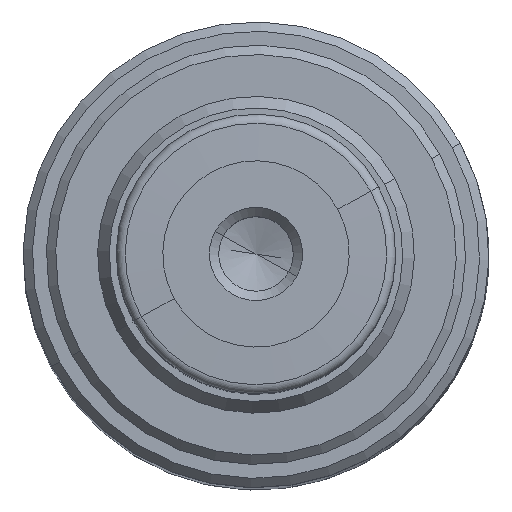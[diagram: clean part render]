
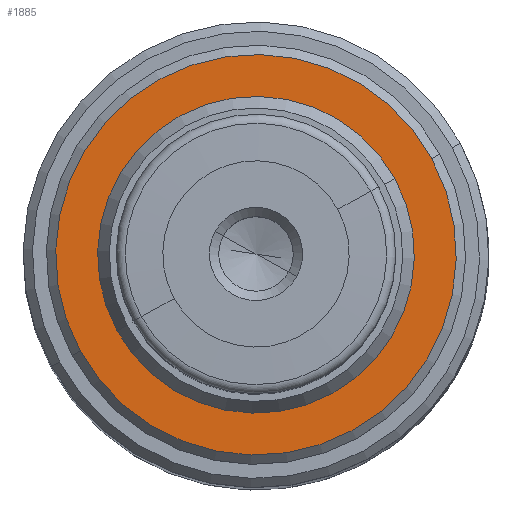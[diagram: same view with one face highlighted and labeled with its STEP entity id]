
A CAD part, top view. The second image highlights one B-rep face of the part: STEP entity #1885.
In plain terms, the highlighted planar face has unit normal (0, 0, 1).
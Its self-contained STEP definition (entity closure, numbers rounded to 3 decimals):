
#1719=CARTESIAN_POINT('Vertex',(14.919,8.15,147.3)) ;
#1722=CARTESIAN_POINT('Axis2P3D Location',(0.,0.,147.3)) ;
#1726=CARTESIAN_POINT('Vertex',(-14.919,-8.15,147.3)) ;
#1746=CARTESIAN_POINT('Axis2P3D Location',(0.,0.,147.3)) ;
#1763=CARTESIAN_POINT('Axis2P3D Location',(0.,0.,147.3)) ;
#1767=CARTESIAN_POINT('Vertex',(18.868,10.308,147.3)) ;
#1769=CARTESIAN_POINT('Vertex',(-18.868,-10.308,147.3)) ;
#1798=CARTESIAN_POINT('Axis2P3D Location',(0.,0.,147.3)) ;
#1872=CARTESIAN_POINT('Axis2P3D Location',(17.,0.,147.3)) ;
#1723=DIRECTION('Axis2P3D Direction',(0.,0.,-1.)) ;
#1747=DIRECTION('Axis2P3D Direction',(0.,0.,-1.)) ;
#1764=DIRECTION('Axis2P3D Direction',(0.,0.,-1.)) ;
#1799=DIRECTION('Axis2P3D Direction',(0.,0.,-1.)) ;
#1873=DIRECTION('Axis2P3D Direction',(0.,0.,1.)) ;
#1874=DIRECTION('Axis2P3D XDirection',(1.,0.,0.)) ;
#1724=AXIS2_PLACEMENT_3D('Circle Axis2P3D',#1722,#1723,$) ;
#1748=AXIS2_PLACEMENT_3D('Circle Axis2P3D',#1746,#1747,$) ;
#1765=AXIS2_PLACEMENT_3D('Circle Axis2P3D',#1763,#1764,$) ;
#1800=AXIS2_PLACEMENT_3D('Circle Axis2P3D',#1798,#1799,$) ;
#1875=AXIS2_PLACEMENT_3D('Plane Axis2P3D',#1872,#1873,#1874) ;
#1878=ORIENTED_EDGE('',*,*,#1802,.T.) ;
#1879=ORIENTED_EDGE('',*,*,#1771,.T.) ;
#1882=ORIENTED_EDGE('',*,*,#1728,.F.) ;
#1883=ORIENTED_EDGE('',*,*,#1750,.F.) ;
#1884=FACE_BOUND('',#1881,.T.) ;
#1885=ADVANCED_FACE('',(#1880,#1884),#1876,.T.) ;
#1725=CIRCLE('generated circle',#1724,17.) ;
#1749=CIRCLE('generated circle',#1748,17.) ;
#1766=CIRCLE('generated circle',#1765,21.5) ;
#1801=CIRCLE('generated circle',#1800,21.5) ;
#1728=EDGE_CURVE('',#1720,#1727,#1725,.F.) ;
#1750=EDGE_CURVE('',#1727,#1720,#1749,.F.) ;
#1771=EDGE_CURVE('',#1768,#1770,#1766,.F.) ;
#1802=EDGE_CURVE('',#1770,#1768,#1801,.F.) ;
#1877=EDGE_LOOP('',(#1878,#1879)) ;
#1881=EDGE_LOOP('',(#1882,#1883)) ;
#1880=FACE_OUTER_BOUND('',#1877,.T.) ;
#1876=PLANE('Plane',#1875) ;
#1720=VERTEX_POINT('',#1719) ;
#1727=VERTEX_POINT('',#1726) ;
#1768=VERTEX_POINT('',#1767) ;
#1770=VERTEX_POINT('',#1769) ;
